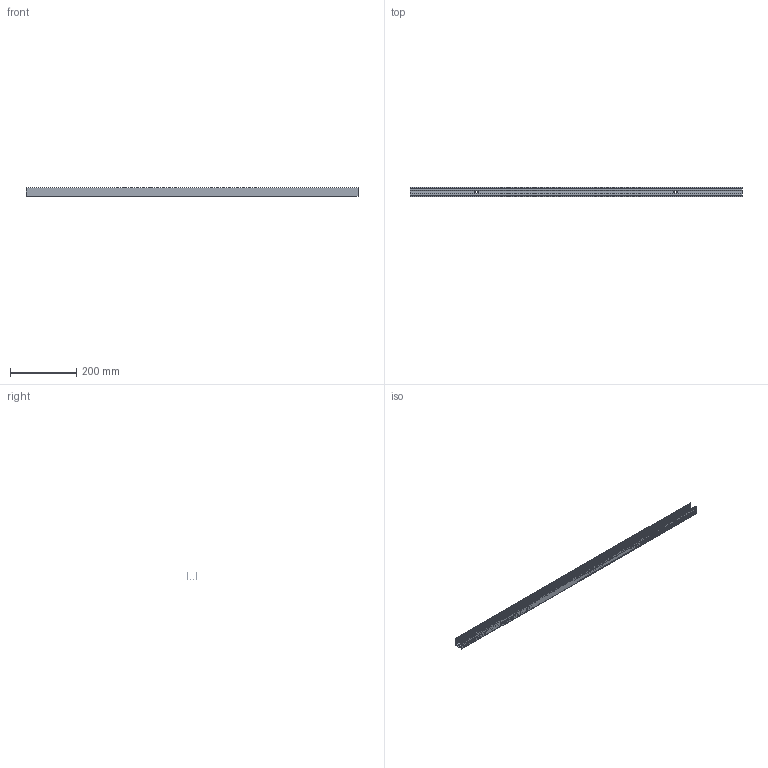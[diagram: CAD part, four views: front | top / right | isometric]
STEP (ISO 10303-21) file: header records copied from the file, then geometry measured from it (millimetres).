
FILE_DESCRIPTION(/* description */ (''),/* implementation_level */ '2;1');
FILE_NAME(/* name */ 'NF_2222_STRAIGHT_PROFILE_L1000_R02.step',/* time_stamp */ '2026-07-16T18:31:57+02:00',/* author */ (''),/* organization */ (''),/* preprocessor_version */ 'ST-DEVELOPER v20.1',/* originating_system */ 'Autodesk Translation Framework v15.8.0.0',/* authorisation */ '');
FILE_SCHEMA (('AUTOMOTIVE_DESIGN { 1 0 10303 214 3 1 1 }'));
Length unit declared in the file: millimetre
Products named in the file (1): 2026-07-16-18-13-14-889
Bounding box: 1000 x 27.69 x 26.28 mm (x, y, z)
Volume: 149124.9 mm3; surface area: 256184.8 mm2
Topology: 3 solids, 3 shells, 112 faces, 318 edges, 212 vertices
Faces by surface type: plane 72, cylinder 23, bspline 17
Entity records: 4566 total; most frequent: CARTESIAN_POINT 1684, ORIENTED_EDGE 636, DIRECTION 522, EDGE_CURVE 318, LINE 238, VECTOR 238, VERTEX_POINT 212, AXIS2_PLACEMENT_3D 142
